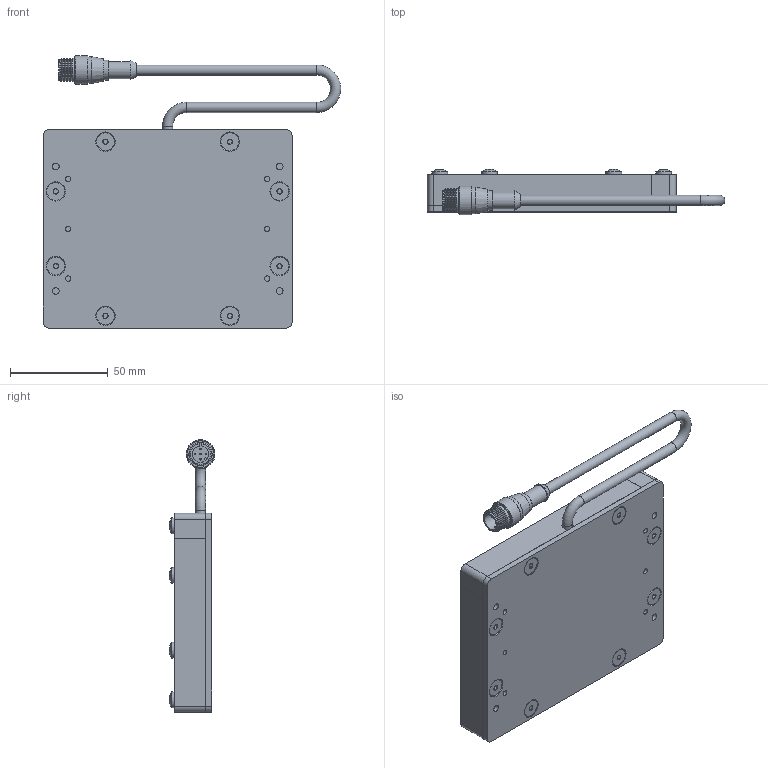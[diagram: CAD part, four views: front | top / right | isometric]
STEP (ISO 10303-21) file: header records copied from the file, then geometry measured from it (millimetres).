
FILE_DESCRIPTION (( 'STEP AP214' ), '1' );
FILE_NAME ('SBL34-XXX.STEP', '2026-04-17T18:32:14', ( '' ), ( '' ), 'SwSTEP 2.0', 'SolidWorks 2025', '' );
FILE_SCHEMA (( 'AUTOMOTIVE_DESIGN' ));
Length unit declared in the file: inch
Products named in the file (12): BackPlate BLYYXX_0304; MC Pigtail 24; SC Pigtail Complete 18_5pin; SBL3 to 18in rail_03in rail; WD-SBLYYXX_3x4 with holes; SBL3 to 18in rail_04in rail; 8-32 x 0.375 FHCS (92210A192)_92210A192; Hex Standoff .375 x 8-32; SBL34-XXX; 8-32 x .375 Nylon Screw_.375" 94611A192; M12 Connector 4,5 and 8 pin_RS4.5T; SBL3 to 18in rail_04in No CG
Assembly tree (33 placements, depth 3):
  SBL34-XXX
    BackPlate BLYYXX_0304
    SBL3 to 18in rail_04in rail
    SBL3 to 18in rail_04in No CG
    SBL3 to 18in rail_03in rail  x2
    SC Pigtail Complete 18_5pin
      MC Pigtail 24
      M12 Connector 4,5 and 8 pin_RS4.5T
    WD-SBLYYXX_3x4 with holes
    Hex Standoff .375 x 8-32  x8
    8-32 x 0.375 FHCS (92210A192)_92210A192  x8
    8-32 x .375 Nylon Screw_.375" 94611A192  x8
Bounding box: 151.83 x 23.38 x 139.13 mm (x, y, z)
Volume: 147905.3 mm3; surface area: 95921.2 mm2
Topology: 32 solids, 32 shells, 996 faces, 2482 edges, 1583 vertices
Faces by surface type: plane 375, cylinder 224, bspline 216, cone 147, torus 21, sphere 13
Full cylindrical faces by diameter (mm): 0.762 x5, 2.705 x6, 3.454 x12, 4.496 x24, 5.207 x3, 6.604 x8, 6.858 x8, 8.128 x8, 8.382 x1, 8.636 x1, 9.119 x8, 10.16 x1, 10.541 x1, 11.938 x1, 13.716 x2, 14.732 x1
Entity records: 16027 total; most frequent: CARTESIAN_POINT 5663, DIRECTION 1857, ORIENTED_EDGE 1616, EDGE_CURVE 808, AXIS2_PLACEMENT_3D 752, VERTEX_POINT 587, EDGE_LOOP 581, FACE_OUTER_BOUND 448
